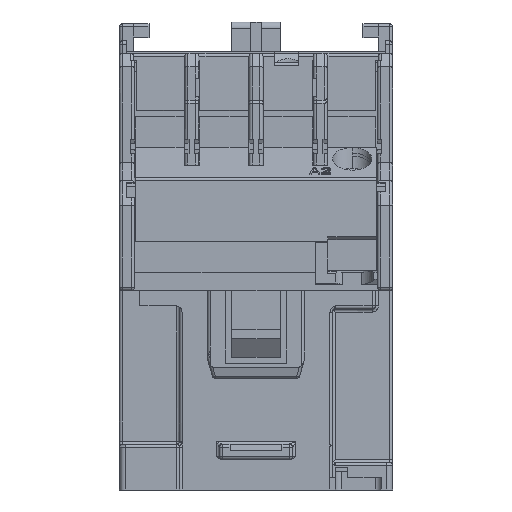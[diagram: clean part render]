
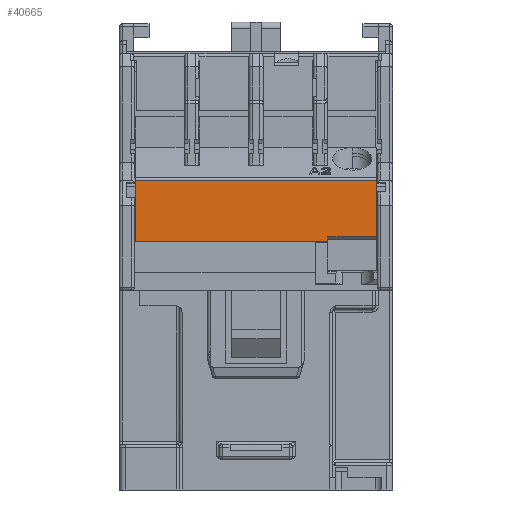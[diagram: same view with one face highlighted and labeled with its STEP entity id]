
A CAD part, front view. The second image highlights one B-rep face of the part: STEP entity #40665.
In plain terms, the highlighted planar face has unit normal (0, -1, 0.018).
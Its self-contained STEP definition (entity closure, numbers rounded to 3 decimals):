
#2153 = CARTESIAN_POINT ( 'NONE',  ( 34.1, 4.514, 41.436 ) ) ;
#4645 = LINE ( 'NONE', #20896, #24178 ) ;
#5356 = VERTEX_POINT ( 'NONE', #38108 ) ;
#5562 = VERTEX_POINT ( 'NONE', #25818 ) ;
#6012 = VECTOR ( 'NONE', #46901, 1000. ) ;
#6036 = CARTESIAN_POINT ( 'NONE',  ( 34.1, 4.514, 41.436 ) ) ;
#6905 = CARTESIAN_POINT ( 'NONE',  ( 34.1, 4.5, 40.65 ) ) ;
#7529 = VERTEX_POINT ( 'NONE', #21515 ) ;
#8275 = DIRECTION ( 'NONE',  ( 0., -1., 0.017 ) ) ;
#10579 = EDGE_CURVE ( 'NONE', #50708, #5562, #22410, .T. ) ;
#11089 = CARTESIAN_POINT ( 'NONE',  ( 2.6, 4.5, 40.65 ) ) ;
#11767 = EDGE_LOOP ( 'NONE', ( #31865, #14577, #18188, #23445, #52225, #39342 ) ) ;
#14577 = ORIENTED_EDGE ( 'NONE', *, *, #24893, .T. ) ;
#16222 = CARTESIAN_POINT ( 'NONE',  ( 42.1, 4.675, 50.698 ) ) ;
#18188 = ORIENTED_EDGE ( 'NONE', *, *, #50999, .T. ) ;
#20896 = CARTESIAN_POINT ( 'NONE',  ( 42.1, 4.514, 41.436 ) ) ;
#21515 = CARTESIAN_POINT ( 'NONE',  ( 2.6, 4.5, 40.65 ) ) ;
#21743 = LINE ( 'NONE', #49694, #25869 ) ;
#21965 = LINE ( 'NONE', #50168, #34639 ) ;
#22410 = LINE ( 'NONE', #2153, #6012 ) ;
#23445 = ORIENTED_EDGE ( 'NONE', *, *, #10579, .T. ) ;
#24178 = VECTOR ( 'NONE', #37158, 1000. ) ;
#24893 = EDGE_CURVE ( 'NONE', #7529, #41983, #43316, .T. ) ;
#25818 = CARTESIAN_POINT ( 'NONE',  ( 42.1, 4.514, 41.436 ) ) ;
#25869 = VECTOR ( 'NONE', #28987, 1000. ) ;
#27377 = DIRECTION ( 'NONE',  ( 1., 0., 0. ) ) ;
#27993 = LINE ( 'NONE', #16222, #45594 ) ;
#28987 = DIRECTION ( 'NONE',  ( 0., -0.017, -1. ) ) ;
#31865 = ORIENTED_EDGE ( 'NONE', *, *, #46393, .T. ) ;
#32028 = DIRECTION ( 'NONE',  ( 1., 0., 0. ) ) ;
#32284 = CARTESIAN_POINT ( 'NONE',  ( 43.675, 4.5, 40.65 ) ) ;
#34639 = VECTOR ( 'NONE', #42189, 1000. ) ;
#36003 = VERTEX_POINT ( 'NONE', #41121 ) ;
#36007 = EDGE_CURVE ( 'NONE', #5562, #5356, #4645, .T. ) ;
#37158 = DIRECTION ( 'NONE',  ( 0., 0.017, 1. ) ) ;
#38017 = EDGE_CURVE ( 'NONE', #5356, #36003, #27993, .T. ) ;
#38108 = CARTESIAN_POINT ( 'NONE',  ( 42.1, 4.675, 50.698 ) ) ;
#39342 = ORIENTED_EDGE ( 'NONE', *, *, #38017, .T. ) ;
#39480 = FACE_OUTER_BOUND ( 'NONE', #11767, .T. ) ;
#39717 = AXIS2_PLACEMENT_3D ( 'NONE', #32284, #8275, #32028 ) ;
#40515 = PLANE ( 'NONE',  #39717 ) ;
#40665 = ADVANCED_FACE ( 'NONE', ( #39480 ), #40515, .T. ) ;
#41121 = CARTESIAN_POINT ( 'NONE',  ( 2.6, 4.675, 50.698 ) ) ;
#41983 = VERTEX_POINT ( 'NONE', #6905 ) ;
#42189 = DIRECTION ( 'NONE',  ( 0., 0.017, 1. ) ) ;
#43316 = LINE ( 'NONE', #11089, #48500 ) ;
#44193 = DIRECTION ( 'NONE',  ( -1., 0., 0. ) ) ;
#45594 = VECTOR ( 'NONE', #44193, 1000. ) ;
#46393 = EDGE_CURVE ( 'NONE', #36003, #7529, #21743, .T. ) ;
#46901 = DIRECTION ( 'NONE',  ( 1., 0., 0. ) ) ;
#48500 = VECTOR ( 'NONE', #27377, 1000. ) ;
#49694 = CARTESIAN_POINT ( 'NONE',  ( 2.6, 4.675, 50.698 ) ) ;
#50168 = CARTESIAN_POINT ( 'NONE',  ( 34.1, 4.5, 40.65 ) ) ;
#50708 = VERTEX_POINT ( 'NONE', #6036 ) ;
#50999 = EDGE_CURVE ( 'NONE', #41983, #50708, #21965, .T. ) ;
#52225 = ORIENTED_EDGE ( 'NONE', *, *, #36007, .T. ) ;
